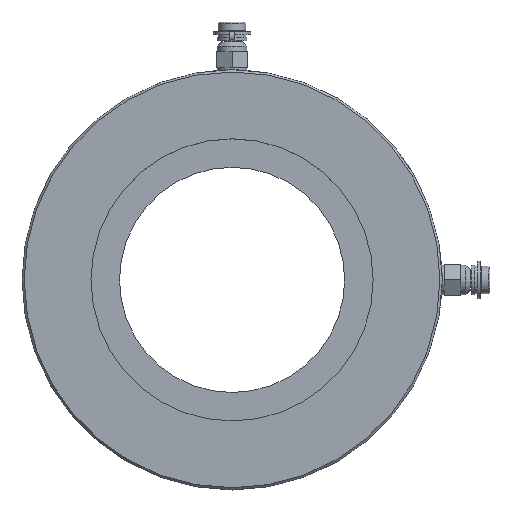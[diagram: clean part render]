
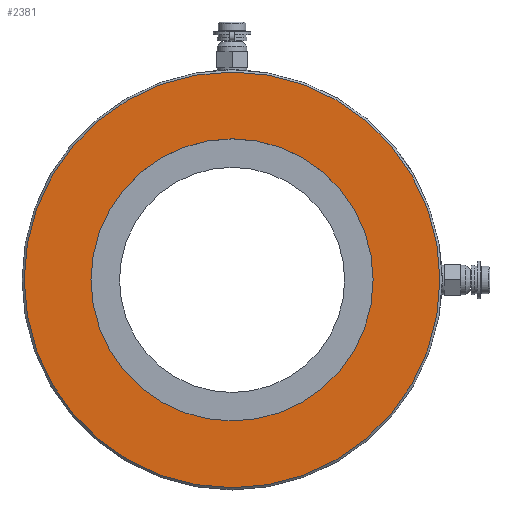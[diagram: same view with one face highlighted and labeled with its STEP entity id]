
A CAD part, top view. The second image highlights one B-rep face of the part: STEP entity #2381.
In plain terms, the highlighted planar face has unit normal (0, 0, 1).
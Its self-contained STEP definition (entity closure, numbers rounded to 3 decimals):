
#2347=CARTESIAN_POINT('',(96.,0.,10.0));
#2348=VERTEX_POINT('',#2347);
#2349=CARTESIAN_POINT('',(0.0,0.0,10.0));
#2350=DIRECTION('',(0.0,0.0,-1.0));
#2351=DIRECTION('',(-1.0,0.0,0.0));
#2352=AXIS2_PLACEMENT_3D('',#2349,#2350,#2351);
#2353=CIRCLE('',#2352,96.);
#2354=EDGE_CURVE('',#2348,#2348,#2353,.T.);
#2362=CARTESIAN_POINT('',(0.0,0.0,10.0));
#2363=DIRECTION('',(0.0,0.0,-1.0));
#2364=DIRECTION('',(-1.0,0.0,0.0));
#2365=AXIS2_PLACEMENT_3D('',#2362,#2363,#2364);
#2366=PLANE('',#2365);
#2367=ORIENTED_EDGE('',*,*,#2354,.F.);
#2368=EDGE_LOOP('',(#2367));
#2369=FACE_OUTER_BOUND('',#2368,.T.);
#2370=CARTESIAN_POINT('',(65.15,0.,10.0));
#2371=VERTEX_POINT('',#2370);
#2372=CARTESIAN_POINT('',(0.0,0.0,10.0));
#2373=DIRECTION('',(0.0,0.0,-1.0));
#2374=DIRECTION('',(-1.0,0.0,0.0));
#2375=AXIS2_PLACEMENT_3D('',#2372,#2373,#2374);
#2376=CIRCLE('',#2375,65.15);
#2377=EDGE_CURVE('',#2371,#2371,#2376,.T.);
#2378=ORIENTED_EDGE('',*,*,#2377,.T.);
#2379=EDGE_LOOP('',(#2378));
#2380=FACE_BOUND('',#2379,.T.);
#2381=ADVANCED_FACE('',(#2369,#2380),#2366,.F.);
